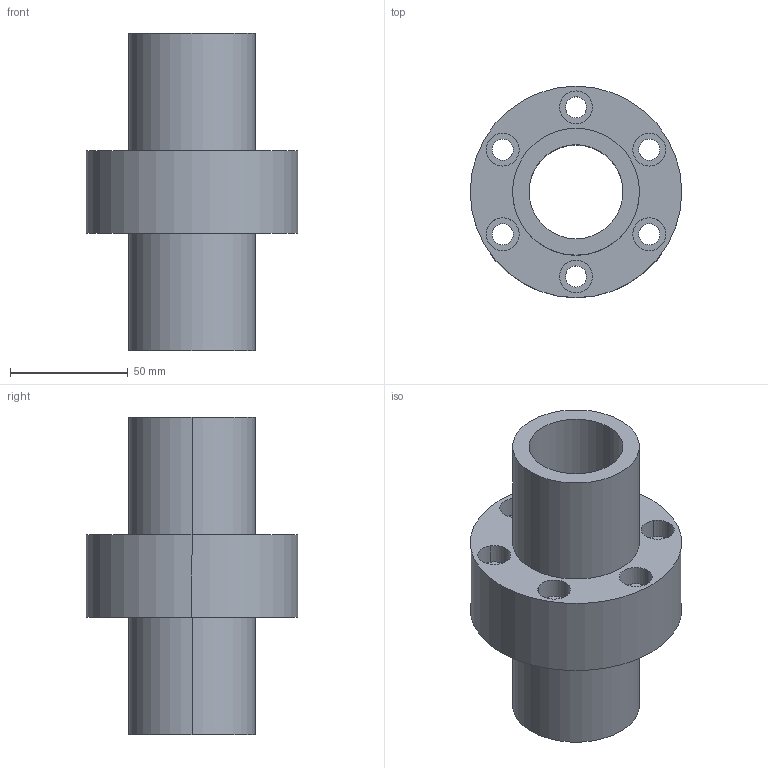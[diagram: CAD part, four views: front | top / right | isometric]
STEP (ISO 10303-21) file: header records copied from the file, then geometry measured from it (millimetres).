
FILE_DESCRIPTION((''),'2;1');
FILE_NAME('40-5T6','2008-04-07T',('yanyu'),(''),'PRO/ENGINEER BY PARAMETRIC TECHNOLOGY CORPORATION, 2005070','PRO/ENGINEER BY PARAMETRIC TECHNOLOGY CORPORATION, 2005070','');
FILE_SCHEMA(('CONFIG_CONTROL_DESIGN'));
Length unit declared in the file: millimetre
Products named in the file (1): 40-5T6
Bounding box: 90 x 90 x 135 mm (x, y, z)
Volume: 264070.5 mm3; surface area: 60010.7 mm2
Topology: 1 solids, 1 shells, 42 faces, 100 edges, 68 vertices
Faces by surface type: cylinder 32, plane 10
Entity records: 1330 total; most frequent: DIRECTION 252, CARTESIAN_POINT 210, ORIENTED_EDGE 200, AXIS2_PLACEMENT_3D 110, EDGE_CURVE 100, VERTEX_POINT 68, CIRCLE 68, EDGE_LOOP 64
